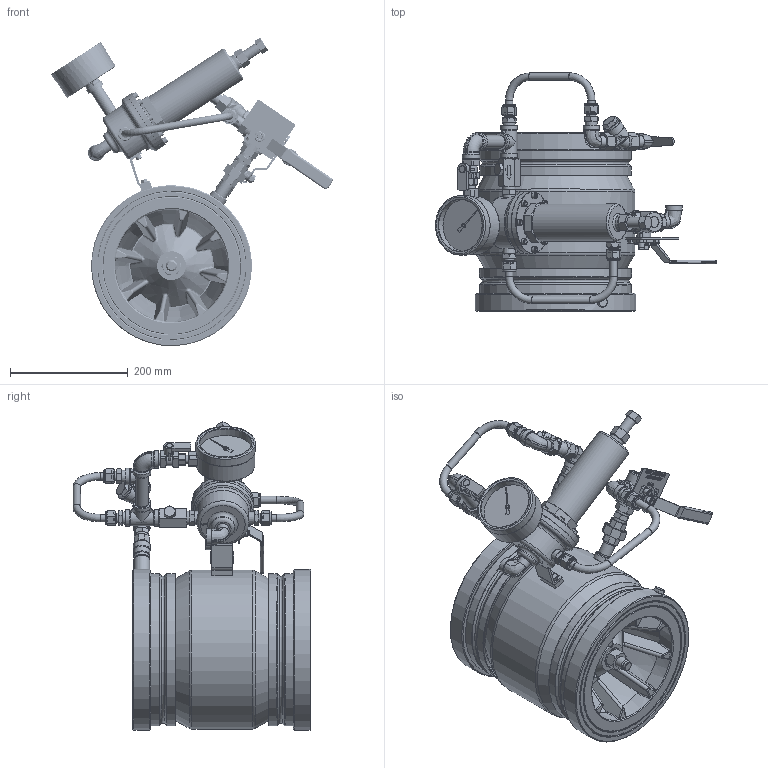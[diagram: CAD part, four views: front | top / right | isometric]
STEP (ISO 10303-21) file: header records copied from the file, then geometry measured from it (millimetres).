
FILE_DESCRIPTION(/* description */ (''),/* implementation_level */ '2;1');
FILE_NAME(/* name */ 'Z:\STANDARD SYSTEM\700D-01S02\STEP\799D-01S02 8in.stp',/* time_stamp */ '2021-07-13T09:56:07+03:00',/* author */ ('alex'),/* organization */ (''),/* preprocessor_version */ 'ST-DEVELOPER v16.13',/* originating_system */ 'Autodesk Inventor 2018',/* authorisation */ '');
FILE_SCHEMA (('AUTOMOTIVE_DESIGN { 1 0 10303 214 3 1 1 }'));
Length unit declared in the file: millimetre
Products named in the file (83): 799D-01S02 8in; Nipple 12x2 SS; Union 12 SS; Half Union 12M SS; Half Union 12F SS; Half Union F; Plug 14 SS; 347-08-05; BODY_347-08-05; HANDLE_347-08-05; COVER_347-08-10; DIN 934 - M10; ISO 4017 - M5 x 25; DIN 934 - M5; HANDLE_LOCK_347-08-05; Nipple 12x3,5 SS; ISO 7380 - M5 x 10; 5424-5; 5798; PO2; 4216; 5014; 3410; ANSI B18.3 - 1/4 - 20 - 5/8; 3295; 5240; ANSI/ASME B18.2.1 - 1/4-20 UNC - 0.5; DIN 912 - M6 x 10; 353-08-01; HANDLE_COVER_SAGIV; HANDLE_SAGIV; BODY_SAGIV_353-08-03; OUTLET_353-04-01; INLET_353-08-01; Elbow 12FxF SS; Fitting TF 12NPTxOD12; TFFitting Body 12; Back Ferrule 12; Front Ferrule 12; Fitting Nut 12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
Assembly tree (107 placements, depth 4):
  799D-01S02 8in
    Nipple 12x2 SS
    Union 12 SS
      Half Union 12M SS
      Half Union 12F SS
      Half Union F
    Nipple 12 hex SS  x3
    Plug 14 SS
    347-08-05
      BODY_347-08-05
      HANDLE_347-08-05
      COVER_347-08-10
      DIN 934 - M10
      ISO 4017 - M5 x 25  x2
      DIN 934 - M5  x2
      HANDLE_LOCK_347-08-05  x2
    Nipple 12x3,5 SS
    ISO 7380 - M5 x 10
    5424-5
    5798
    PO2
      4216
      5014
      3410
      ANSI B18.3 - 1/4 - 20 - 5/8  x8
      3295
      5240
    ANSI/ASME B18.2.1 - 1/4-20 UNC - 0.5  x2
    DIN 912 - M6 x 10  x2
    Fitting TF 12NPTxOD12  x4
      TFFitting Body 12
      Back Ferrule 12
      Front Ferrule 12
      Fitting Nut 12
    353-08-01
      HANDLE_COVER_SAGIV
      HANDLE_SAGIV
      BODY_SAGIV_353-08-03
      OUTLET_353-04-01
      INLET_353-08-01
    Elbow 12FxF SS
    799D-8
      4247
      4648
      4650
      4249  x2
      3263  x2
      4430
      4515  x2
      4514  x2
      4105
      4679_rev01
    Nipple 12x14 SS
    31-08-01
      BODY
      COVER_31-08-01
    6244-1
      6245-1
      0-RING Ø12xØ3
      DIN 472 - 18 x 1
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Bounding box: 477.23 x 403.59 x 522.9 mm (x, y, z)
Volume: 8750003.7 mm3; surface area: 1959828.3 mm2
Topology: 101 solids, 102 shells, 2962 faces, 6982 edges, 4348 vertices
Faces by surface type: plane 1297, cone 668, cylinder 505, bspline 360, torus 129, sphere 3
Full cylindrical faces by diameter (mm): 2 x2, 4 x10, 4.134 x3, 4.5 x2, 4.978 x2, 5 x8, 5.2 x10, 5.25 x2, 5.8 x4, 6 x2, 6.35 x10, 6.5 x8, 6.647 x1, 6.88 x2, 7 x2, 7.5 x1, 8 x1, 8.376 x1, 9.5 x2, 9.525 x8, 10 x4, 10.211 x6, 10.5 x6, 11 x1, 11.125 x2, 11.5 x4, 11.815 x1, 11.83 x1, 12.5 x2, 12.7 x6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
Entity records: 74533 total; most frequent: CARTESIAN_POINT 26216, DIRECTION 9149, ORIENTED_EDGE 8980, EDGE_CURVE 4481, AXIS2_PLACEMENT_3D 3619, VERTEX_POINT 3074, EDGE_LOOP 2907, FACE_OUTER_BOUND 2136
